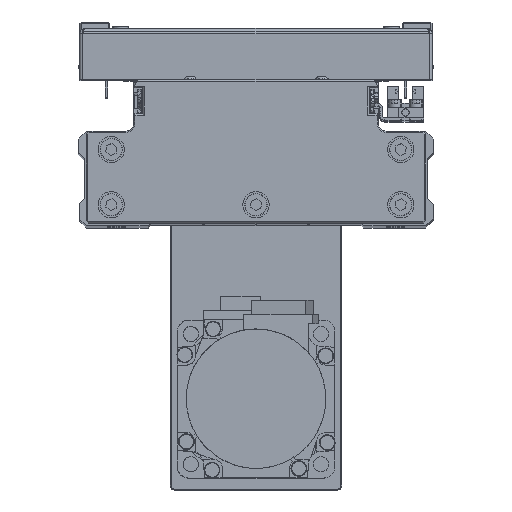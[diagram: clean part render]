
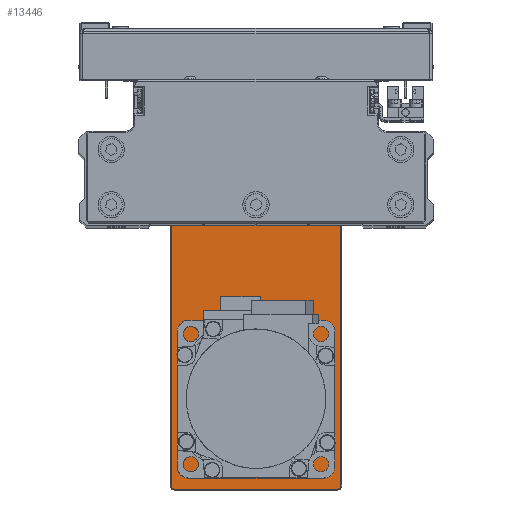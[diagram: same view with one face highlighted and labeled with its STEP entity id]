
A CAD part, top view. The second image highlights one B-rep face of the part: STEP entity #13446.
In plain terms, the highlighted planar face has unit normal (0, 0, 1) as drawn and (0, 1, 0) by its records, which use the part's own axes.
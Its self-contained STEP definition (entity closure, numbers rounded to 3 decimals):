
#34 = FACE_BOUND ( 'NONE', #20695, .T. ) ;
#478 = ORIENTED_EDGE ( 'NONE', *, *, #35500, .T. ) ;
#610 = CIRCLE ( 'NONE', #25284, 15. ) ;
#1924 = AXIS2_PLACEMENT_3D ( 'NONE', #21483, #34932, #4717 ) ;
#2067 = CARTESIAN_POINT ( 'NONE',  ( 75.992, 6., -8.551 ) ) ;
#2434 = VECTOR ( 'NONE', #8122, 1000. ) ;
#2460 = VERTEX_POINT ( 'NONE', #41762 ) ;
#3514 = VECTOR ( 'NONE', #6459, 1000. ) ;
#3569 = ORIENTED_EDGE ( 'NONE', *, *, #24488, .F. ) ;
#3917 = VERTEX_POINT ( 'NONE', #13545 ) ;
#4644 = VERTEX_POINT ( 'NONE', #7001 ) ;
#4717 = DIRECTION ( 'NONE',  ( 0., 0., -1. ) ) ;
#4929 = VERTEX_POINT ( 'NONE', #29461 ) ;
#5362 = VERTEX_POINT ( 'NONE', #7505 ) ;
#5484 = CARTESIAN_POINT ( 'NONE',  ( -50.5, 6., 0. ) ) ;
#5592 = CIRCLE ( 'NONE', #30251, 15. ) ;
#5651 = DIRECTION ( 'NONE',  ( 0., 1., 0. ) ) ;
#6000 = VERTEX_POINT ( 'NONE', #33877 ) ;
#6068 = CARTESIAN_POINT ( 'NONE',  ( 84.7, 6., 31. ) ) ;
#6171 = CARTESIAN_POINT ( 'NONE',  ( 0., 6., 32.2 ) ) ;
#6209 = VERTEX_POINT ( 'NONE', #28985 ) ;
#6459 = DIRECTION ( 'NONE',  ( -1., 0., 0. ) ) ;
#6522 = CARTESIAN_POINT ( 'NONE',  ( 84.7, 6., -31. ) ) ;
#6879 = DIRECTION ( 'NONE',  ( 0., 0., -1. ) ) ;
#7001 = CARTESIAN_POINT ( 'NONE',  ( -50.5, 6., -15. ) ) ;
#7039 = DIRECTION ( 'NONE',  ( 0., 0., -1. ) ) ;
#7238 = DIRECTION ( 'NONE',  ( 0., 1., 0. ) ) ;
#7374 = CIRCLE ( 'NONE', #32041, 1.525 ) ;
#7505 = CARTESIAN_POINT ( 'NONE',  ( -84.7, 6., -31. ) ) ;
#8122 = DIRECTION ( 'NONE',  ( 0., 0., 1. ) ) ;
#8173 = DIRECTION ( 'NONE',  ( 0., 1., 0. ) ) ;
#9966 = ORIENTED_EDGE ( 'NONE', *, *, #25834, .T. ) ;
#10170 = PLANE ( 'NONE',  #13910 ) ;
#10241 = CARTESIAN_POINT ( 'NONE',  ( 84.7, 6., 0. ) ) ;
#10980 = EDGE_CURVE ( 'NONE', #4929, #21327, #42609, .T. ) ;
#11354 = ORIENTED_EDGE ( 'NONE', *, *, #34778, .F. ) ;
#11409 = DIRECTION ( 'NONE',  ( 0., 0., -1. ) ) ;
#12066 = DIRECTION ( 'NONE',  ( 0., 1., 0. ) ) ;
#13157 = EDGE_CURVE ( 'NONE', #28332, #43270, #20964, .T. ) ;
#13446 = ADVANCED_FACE ( 'NONE', ( #30264, #34, #13497, #26948, #40391 ), #10170, .F. ) ;
#13497 = FACE_BOUND ( 'NONE', #40827, .T. ) ;
#13545 = CARTESIAN_POINT ( 'NONE',  ( 61.051, 6., 21.967 ) ) ;
#13910 = AXIS2_PLACEMENT_3D ( 'NONE', #23639, #37088, #6879 ) ;
#13916 = ORIENTED_EDGE ( 'NONE', *, *, #24739, .F. ) ;
#14035 = VERTEX_POINT ( 'NONE', #41459 ) ;
#14054 = AXIS2_PLACEMENT_3D ( 'NONE', #38379, #8173, #21647 ) ;
#14163 = CARTESIAN_POINT ( 'NONE',  ( -50.5, 6., 0. ) ) ;
#14632 = CARTESIAN_POINT ( 'NONE',  ( 75.992, 6., -8.551 ) ) ;
#15411 = CARTESIAN_POINT ( 'NONE',  ( 52.5, 6., 0. ) ) ;
#15522 = DIRECTION ( 'NONE',  ( 0., 1., 0. ) ) ;
#15836 = ORIENTED_EDGE ( 'NONE', *, *, #36643, .T. ) ;
#15845 = AXIS2_PLACEMENT_3D ( 'NONE', #14632, #28098, #41554 ) ;
#16280 = CIRCLE ( 'NONE', #40934, 10.3 ) ;
#17888 = VERTEX_POINT ( 'NONE', #6068 ) ;
#18584 = ORIENTED_EDGE ( 'NONE', *, *, #41926, .F. ) ;
#18958 = DIRECTION ( 'NONE',  ( 0., 1., 0. ) ) ;
#19113 = DIRECTION ( 'NONE',  ( 0., 0., -1. ) ) ;
#19634 = DIRECTION ( 'NONE',  ( 1., 0., 0. ) ) ;
#20318 = AXIS2_PLACEMENT_3D ( 'NONE', #28181, #41628, #11409 ) ;
#20692 = DIRECTION ( 'NONE',  ( 0., 0., -1. ) ) ;
#20695 = EDGE_LOOP ( 'NONE', ( #11354, #3569 ) ) ;
#20964 = CIRCLE ( 'NONE', #1924, 1.2 ) ;
#21327 = VERTEX_POINT ( 'NONE', #31531 ) ;
#21483 = CARTESIAN_POINT ( 'NONE',  ( 83.5, 6., -31. ) ) ;
#21647 = DIRECTION ( 'NONE',  ( 0., 0., 1. ) ) ;
#22746 = ORIENTED_EDGE ( 'NONE', *, *, #31002, .T. ) ;
#22946 = AXIS2_PLACEMENT_3D ( 'NONE', #37461, #7238, #20692 ) ;
#23243 = LINE ( 'NONE', #36683, #3514 ) ;
#23387 = VERTEX_POINT ( 'NONE', #35807 ) ;
#23480 = ORIENTED_EDGE ( 'NONE', *, *, #13157, .T. ) ;
#23611 = AXIS2_PLACEMENT_3D ( 'NONE', #35869, #5651, #19113 ) ;
#23639 = CARTESIAN_POINT ( 'NONE',  ( 0., 6., 0. ) ) ;
#23712 = DIRECTION ( 'NONE',  ( 0., 0., -1. ) ) ;
#23806 = CARTESIAN_POINT ( 'NONE',  ( -83.5, 6., -31. ) ) ;
#24054 = EDGE_CURVE ( 'NONE', #26884, #2460, #39309, .T. ) ;
#24488 = EDGE_CURVE ( 'NONE', #6209, #23387, #35825, .T. ) ;
#24615 = AXIS2_PLACEMENT_3D ( 'NONE', #23806, #37256, #7039 ) ;
#24668 = VERTEX_POINT ( 'NONE', #27186 ) ;
#24739 = EDGE_CURVE ( 'NONE', #6000, #4644, #610, .T. ) ;
#24891 = LINE ( 'NONE', #38335, #2434 ) ;
#25284 = AXIS2_PLACEMENT_3D ( 'NONE', #14163, #27627, #41074 ) ;
#25324 = EDGE_CURVE ( 'NONE', #4644, #6000, #5592, .T. ) ;
#25520 = DIRECTION ( 'NONE',  ( 0., 0., 1. ) ) ;
#25834 = EDGE_CURVE ( 'NONE', #43270, #24668, #23243, .T. ) ;
#26678 = CARTESIAN_POINT ( 'NONE',  ( 83.5, 6., -32.2 ) ) ;
#26884 = VERTEX_POINT ( 'NONE', #37882 ) ;
#26948 = FACE_OUTER_BOUND ( 'NONE', #34332, .T. ) ;
#27186 = CARTESIAN_POINT ( 'NONE',  ( -83.5, 6., -32.2 ) ) ;
#27627 = DIRECTION ( 'NONE',  ( 0., 1., 0. ) ) ;
#27695 = EDGE_LOOP ( 'NONE', ( #13916, #28964 ) ) ;
#28098 = DIRECTION ( 'NONE',  ( 0., 1., 0. ) ) ;
#28181 = CARTESIAN_POINT ( 'NONE',  ( 52.5, 6., 0. ) ) ;
#28332 = VERTEX_POINT ( 'NONE', #6522 ) ;
#28868 = DIRECTION ( 'NONE',  ( 0., -1., 0. ) ) ;
#28964 = ORIENTED_EDGE ( 'NONE', *, *, #25324, .F. ) ;
#28972 = DIRECTION ( 'NONE',  ( 0., 0., 1. ) ) ;
#28985 = CARTESIAN_POINT ( 'NONE',  ( 75.992, 6., -10.076 ) ) ;
#29461 = CARTESIAN_POINT ( 'NONE',  ( -84.7, 6., 31. ) ) ;
#30251 = AXIS2_PLACEMENT_3D ( 'NONE', #5484, #18958, #32406 ) ;
#30264 = FACE_BOUND ( 'NONE', #39181, .T. ) ;
#30384 = EDGE_CURVE ( 'NONE', #2460, #26884, #16280, .T. ) ;
#30909 = VERTEX_POINT ( 'NONE', #42900 ) ;
#31002 = EDGE_CURVE ( 'NONE', #17888, #28332, #40452, .T. ) ;
#31065 = ORIENTED_EDGE ( 'NONE', *, *, #41678, .T. ) ;
#31531 = CARTESIAN_POINT ( 'NONE',  ( -83.5, 6., 32.2 ) ) ;
#32041 = AXIS2_PLACEMENT_3D ( 'NONE', #42287, #12066, #25520 ) ;
#32406 = DIRECTION ( 'NONE',  ( 0., 0., 1. ) ) ;
#32787 = ORIENTED_EDGE ( 'NONE', *, *, #30384, .T. ) ;
#33073 = CIRCLE ( 'NONE', #14054, 1.525 ) ;
#33288 = ORIENTED_EDGE ( 'NONE', *, *, #10980, .T. ) ;
#33877 = CARTESIAN_POINT ( 'NONE',  ( -50.5, 6., 15. ) ) ;
#34332 = EDGE_LOOP ( 'NONE', ( #23480, #9966, #31065, #39842, #33288, #15836, #478, #22746 ) ) ;
#34503 = EDGE_CURVE ( 'NONE', #3917, #30909, #7374, .T. ) ;
#34778 = EDGE_CURVE ( 'NONE', #23387, #6209, #34883, .T. ) ;
#34883 = CIRCLE ( 'NONE', #15845, 1.525 ) ;
#34932 = DIRECTION ( 'NONE',  ( 0., 1., 0. ) ) ;
#35500 = EDGE_CURVE ( 'NONE', #14035, #17888, #41967, .T. ) ;
#35807 = CARTESIAN_POINT ( 'NONE',  ( 75.992, 6., -7.026 ) ) ;
#35825 = CIRCLE ( 'NONE', #41482, 1.525 ) ;
#35869 = CARTESIAN_POINT ( 'NONE',  ( -83.5, 6., 31. ) ) ;
#36389 = LINE ( 'NONE', #6171, #43394 ) ;
#36643 = EDGE_CURVE ( 'NONE', #21327, #14035, #36389, .T. ) ;
#36664 = ORIENTED_EDGE ( 'NONE', *, *, #34503, .F. ) ;
#36683 = CARTESIAN_POINT ( 'NONE',  ( 0., 6., -32.2 ) ) ;
#37088 = DIRECTION ( 'NONE',  ( 0., -1., 0. ) ) ;
#37256 = DIRECTION ( 'NONE',  ( 0., 1., 0. ) ) ;
#37461 = CARTESIAN_POINT ( 'NONE',  ( 83.5, 6., 31. ) ) ;
#37882 = CARTESIAN_POINT ( 'NONE',  ( 52.5, 6., 10.3 ) ) ;
#38335 = CARTESIAN_POINT ( 'NONE',  ( -84.7, 6., 0. ) ) ;
#38379 = CARTESIAN_POINT ( 'NONE',  ( 61.051, 6., 23.492 ) ) ;
#39181 = EDGE_LOOP ( 'NONE', ( #18584, #36664 ) ) ;
#39309 = CIRCLE ( 'NONE', #20318, 10.3 ) ;
#39842 = ORIENTED_EDGE ( 'NONE', *, *, #43384, .T. ) ;
#40271 = VECTOR ( 'NONE', #23712, 1000. ) ;
#40391 = FACE_BOUND ( 'NONE', #27695, .T. ) ;
#40452 = LINE ( 'NONE', #10241, #40271 ) ;
#40827 = EDGE_LOOP ( 'NONE', ( #42223, #32787 ) ) ;
#40934 = AXIS2_PLACEMENT_3D ( 'NONE', #15411, #28868, #42317 ) ;
#41074 = DIRECTION ( 'NONE',  ( 0., 0., 1. ) ) ;
#41459 = CARTESIAN_POINT ( 'NONE',  ( 83.5, 6., 32.2 ) ) ;
#41482 = AXIS2_PLACEMENT_3D ( 'NONE', #2067, #15522, #28972 ) ;
#41554 = DIRECTION ( 'NONE',  ( 0., 0., 1. ) ) ;
#41628 = DIRECTION ( 'NONE',  ( 0., -1., 0. ) ) ;
#41678 = EDGE_CURVE ( 'NONE', #24668, #5362, #43613, .T. ) ;
#41762 = CARTESIAN_POINT ( 'NONE',  ( 52.5, 6., -10.3 ) ) ;
#41926 = EDGE_CURVE ( 'NONE', #30909, #3917, #33073, .T. ) ;
#41967 = CIRCLE ( 'NONE', #22946, 1.2 ) ;
#42223 = ORIENTED_EDGE ( 'NONE', *, *, #24054, .T. ) ;
#42287 = CARTESIAN_POINT ( 'NONE',  ( 61.051, 6., 23.492 ) ) ;
#42317 = DIRECTION ( 'NONE',  ( 0., 0., -1. ) ) ;
#42609 = CIRCLE ( 'NONE', #23611, 1.2 ) ;
#42900 = CARTESIAN_POINT ( 'NONE',  ( 61.051, 6., 25.017 ) ) ;
#43270 = VERTEX_POINT ( 'NONE', #26678 ) ;
#43384 = EDGE_CURVE ( 'NONE', #5362, #4929, #24891, .T. ) ;
#43394 = VECTOR ( 'NONE', #19634, 1000. ) ;
#43613 = CIRCLE ( 'NONE', #24615, 1.2 ) ;
